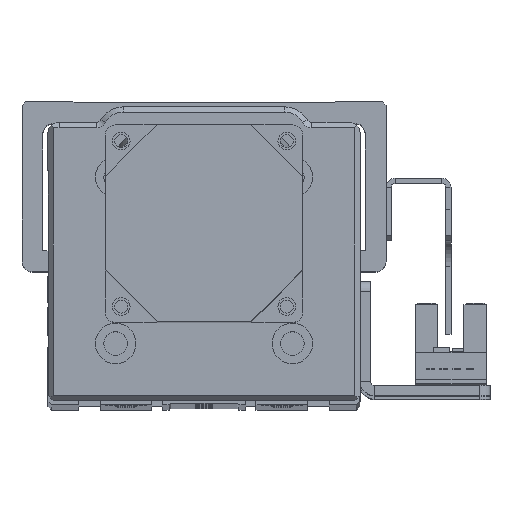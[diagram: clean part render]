
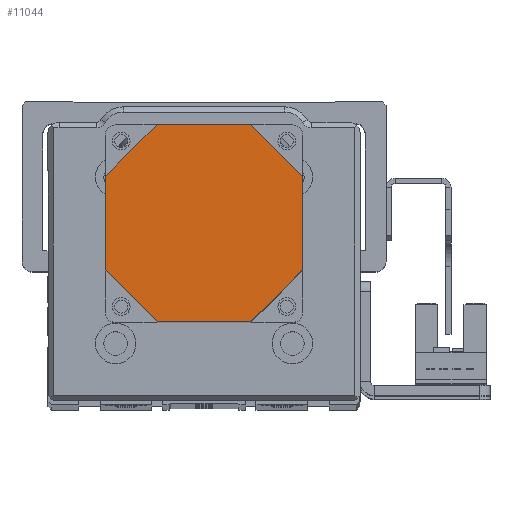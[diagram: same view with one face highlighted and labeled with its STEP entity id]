
A CAD part, top view. The second image highlights one B-rep face of the part: STEP entity #11044.
In plain terms, the highlighted planar face has unit normal (0, 0, 1) as drawn and (0, 0, -1) by its records, which use the part's own axes.
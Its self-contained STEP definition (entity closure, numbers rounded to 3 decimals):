
#7487 = CARTESIAN_POINT ( 'NONE',  ( 9., -19., -84. ) ) ;
#7490 = CARTESIAN_POINT ( 'NONE',  ( -9., 19., -84. ) ) ;
#7498 = CARTESIAN_POINT ( 'NONE',  ( -19., -9., -84. ) ) ;
#7501 = CARTESIAN_POINT ( 'NONE',  ( -19., 9., -84. ) ) ;
#7564 = CARTESIAN_POINT ( 'NONE',  ( -9., -19., -84. ) ) ;
#7581 = CARTESIAN_POINT ( 'NONE',  ( 19., -9., -84. ) ) ;
#7591 = CARTESIAN_POINT ( 'NONE',  ( 19., 9., -84. ) ) ;
#7656 = CARTESIAN_POINT ( 'NONE',  ( 9., 19., -84. ) ) ;
#10401 = VERTEX_POINT ( 'NONE', #7501 ) ;
#10405 = VERTEX_POINT ( 'NONE', #7487 ) ;
#10420 = VERTEX_POINT ( 'NONE', #7490 ) ;
#10421 = VERTEX_POINT ( 'NONE', #7498 ) ;
#10432 = VERTEX_POINT ( 'NONE', #7581 ) ;
#10445 = VERTEX_POINT ( 'NONE', #7591 ) ;
#10446 = VERTEX_POINT ( 'NONE', #7564 ) ;
#10507 = VERTEX_POINT ( 'NONE', #7656 ) ;
#11044 = ADVANCED_FACE ( 'NONE', ( #17448 ), #23803, .F. ) ;
#12511 = ORIENTED_EDGE ( 'NONE', *, *, #14776, .T. ) ;
#12517 = ORIENTED_EDGE ( 'NONE', *, *, #14740, .T. ) ;
#12534 = ORIENTED_EDGE ( 'NONE', *, *, #14793, .T. ) ;
#12543 = ORIENTED_EDGE ( 'NONE', *, *, #14761, .T. ) ;
#12544 = ORIENTED_EDGE ( 'NONE', *, *, #14790, .T. ) ;
#12562 = ORIENTED_EDGE ( 'NONE', *, *, #14764, .T. ) ;
#12603 = ORIENTED_EDGE ( 'NONE', *, *, #14784, .T. ) ;
#12628 = ORIENTED_EDGE ( 'NONE', *, *, #14785, .T. ) ;
#13557 = EDGE_LOOP ( 'NONE', ( #12543, #12603, #12628, #12511, #12544, #12534, #12517, #12562 ) ) ;
#14740 = EDGE_CURVE ( 'NONE', #10432, #10405, #17546, .T. ) ;
#14761 = EDGE_CURVE ( 'NONE', #10446, #10421, #17633, .T. ) ;
#14764 = EDGE_CURVE ( 'NONE', #10405, #10446, #17666, .T. ) ;
#14776 = EDGE_CURVE ( 'NONE', #10420, #10507, #17605, .T. ) ;
#14784 = EDGE_CURVE ( 'NONE', #10421, #10401, #17677, .T. ) ;
#14785 = EDGE_CURVE ( 'NONE', #10401, #10420, #17723, .T. ) ;
#14790 = EDGE_CURVE ( 'NONE', #10507, #10445, #17680, .T. ) ;
#14793 = EDGE_CURVE ( 'NONE', #10445, #10432, #17673, .T. ) ;
#16905 = AXIS2_PLACEMENT_3D ( 'NONE', #23791, #23808, #23833 ) ;
#17448 = FACE_OUTER_BOUND ( 'NONE', #13557, .T. ) ;
#17541 = VECTOR ( 'NONE', #24048, 1000. ) ;
#17546 = LINE ( 'NONE', #24051, #17541 ) ;
#17605 = LINE ( 'NONE', #24144, #17646 ) ;
#17611 = VECTOR ( 'NONE', #24104, 1000. ) ;
#17633 = LINE ( 'NONE', #24100, #17611 ) ;
#17646 = VECTOR ( 'NONE', #24128, 1000. ) ;
#17662 = VECTOR ( 'NONE', #24106, 1000. ) ;
#17666 = LINE ( 'NONE', #24086, #17662 ) ;
#17673 = LINE ( 'NONE', #24178, #17703 ) ;
#17677 = LINE ( 'NONE', #24113, #17686 ) ;
#17680 = LINE ( 'NONE', #24158, #17690 ) ;
#17685 = VECTOR ( 'NONE', #24118, 1000. ) ;
#17686 = VECTOR ( 'NONE', #24120, 1000. ) ;
#17690 = VECTOR ( 'NONE', #24179, 1000. ) ;
#17703 = VECTOR ( 'NONE', #24159, 1000. ) ;
#17723 = LINE ( 'NONE', #24152, #17685 ) ;
#23791 = CARTESIAN_POINT ( 'NONE',  ( 0., 0., -84. ) ) ;
#23803 = PLANE ( 'NONE',  #16905 ) ;
#23808 = DIRECTION ( 'NONE',  ( 0., 0., 1. ) ) ;
#23833 = DIRECTION ( 'NONE',  ( 1., 0., 0. ) ) ;
#24048 = DIRECTION ( 'NONE',  ( -0.707, -0.707, 0. ) ) ;
#24051 = CARTESIAN_POINT ( 'NONE',  ( 19., -9., -84. ) ) ;
#24086 = CARTESIAN_POINT ( 'NONE',  ( 9., -19., -84. ) ) ;
#24100 = CARTESIAN_POINT ( 'NONE',  ( -9., -19., -84. ) ) ;
#24104 = DIRECTION ( 'NONE',  ( -0.707, 0.707, 0. ) ) ;
#24106 = DIRECTION ( 'NONE',  ( -1., 0., 0. ) ) ;
#24113 = CARTESIAN_POINT ( 'NONE',  ( -19., 9., -84. ) ) ;
#24118 = DIRECTION ( 'NONE',  ( 0.707, 0.707, 0. ) ) ;
#24120 = DIRECTION ( 'NONE',  ( 0., 1., 0. ) ) ;
#24128 = DIRECTION ( 'NONE',  ( 1., 0., 0. ) ) ;
#24144 = CARTESIAN_POINT ( 'NONE',  ( 9., 19., -84. ) ) ;
#24152 = CARTESIAN_POINT ( 'NONE',  ( -9., 19., -84. ) ) ;
#24158 = CARTESIAN_POINT ( 'NONE',  ( 19., 9., -84. ) ) ;
#24159 = DIRECTION ( 'NONE',  ( 0., -1., 0. ) ) ;
#24178 = CARTESIAN_POINT ( 'NONE',  ( 19., 9., -84. ) ) ;
#24179 = DIRECTION ( 'NONE',  ( 0.707, -0.707, 0. ) ) ;
